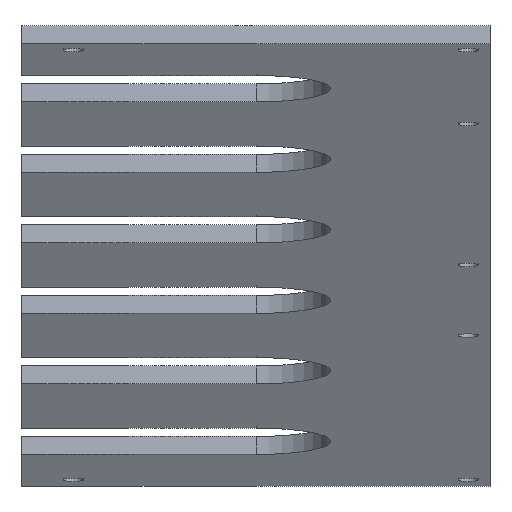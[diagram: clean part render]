
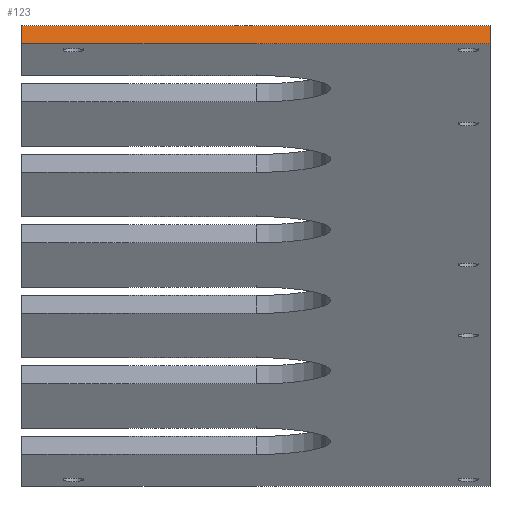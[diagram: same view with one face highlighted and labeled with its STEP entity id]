
A CAD part, top view. The second image highlights one B-rep face of the part: STEP entity #123.
In plain terms, the highlighted planar face has unit normal (0, 0.174, 0.985).
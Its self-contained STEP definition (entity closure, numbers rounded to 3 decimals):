
#67=CARTESIAN_POINT('',(2568.,41.579,1253.111));
#68=VERTEX_POINT('',#67);
#75=CARTESIAN_POINT('',(2568.,36.655,1253.979));
#76=VERTEX_POINT('',#75);
#77=CARTESIAN_POINT('',(2568.,41.579,1253.111));
#78=DIRECTION('',(0.0,-0.985,0.174));
#79=VECTOR('',#78,1.);
#80=LINE('',#77,#79);
#81=EDGE_CURVE('',#68,#76,#80,.T.);
#93=CARTESIAN_POINT('',(2568.,41.579,1253.111));
#94=DIRECTION('',(0.0,0.174,0.985));
#95=DIRECTION('',(-1.0,0.0,0.0));
#96=AXIS2_PLACEMENT_3D('',#93,#94,#95);
#97=PLANE('',#96);
#98=CARTESIAN_POINT('',(2440.,41.579,1253.111));
#99=VERTEX_POINT('',#98);
#100=CARTESIAN_POINT('',(2568.,41.579,1253.111));
#101=DIRECTION('',(-1.0,0.,0.));
#102=VECTOR('',#101,1.);
#103=LINE('',#100,#102);
#104=EDGE_CURVE('',#68,#99,#103,.T.);
#105=ORIENTED_EDGE('',*,*,#104,.T.);
#106=CARTESIAN_POINT('',(2440.,36.655,1253.979));
#107=VERTEX_POINT('',#106);
#108=CARTESIAN_POINT('',(2440.,41.579,1253.111));
#109=DIRECTION('',(0.0,-0.985,0.174));
#110=VECTOR('',#109,1.);
#111=LINE('',#108,#110);
#112=EDGE_CURVE('',#99,#107,#111,.T.);
#113=ORIENTED_EDGE('',*,*,#112,.T.);
#114=CARTESIAN_POINT('',(2568.,36.655,1253.979));
#115=DIRECTION('',(-1.0,0.,0.));
#116=VECTOR('',#115,1.);
#117=LINE('',#114,#116);
#118=EDGE_CURVE('',#76,#107,#117,.T.);
#119=ORIENTED_EDGE('',*,*,#118,.F.);
#120=ORIENTED_EDGE('',*,*,#81,.F.);
#121=EDGE_LOOP('',(#105,#113,#119,#120));
#122=FACE_BOUND('',#121,.T.);
#123=ADVANCED_FACE('',(#122),#97,.T.);
